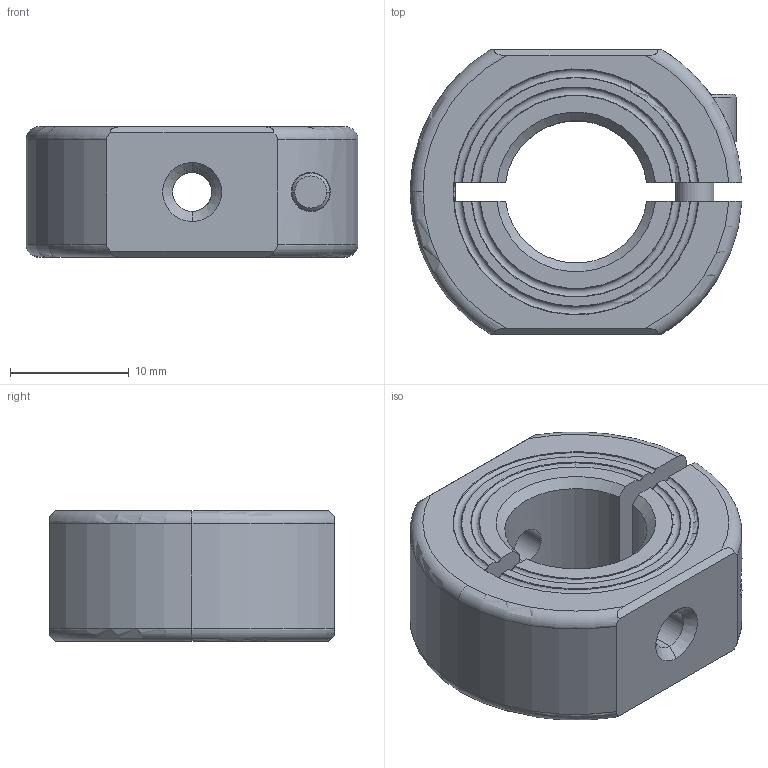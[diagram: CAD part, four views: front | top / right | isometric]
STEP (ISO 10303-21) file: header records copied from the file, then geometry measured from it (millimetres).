
FILE_DESCRIPTION (( 'STEP AP214' ), '1' );
FILE_NAME ('Ruland_OF-MCL-12-F.step', '2019-11-07T15:51:52', ( '' ), ( '' ), 'SwSTEP 2.0', 'SolidWorks 2019', '' );
FILE_SCHEMA (( 'AUTOMOTIVE_DESIGN' ));
Length unit declared in the file: inch
Products named in the file (3): OX-MCL-XX-XX-C_OF-MCL-12-F-C; Metric Socket Head Cap Screws 1_CFM4_12; Ruland_OF-MCL-12-F
Assembly tree (2 placements, depth 2):
  Ruland_OF-MCL-12-F
    OX-MCL-XX-XX-C_OF-MCL-12-F-C
    Metric Socket Head Cap Screws 1_CFM4_12
Bounding box: 27.98 x 24 x 11 mm (x, y, z)
Volume: 4583.4 mm3; surface area: 2970.1 mm2
Topology: 2 solids, 2 shells, 80 faces, 212 edges, 138 vertices
Faces by surface type: plane 28, cylinder 21, cone 19, torus 12
Entity records: 3040 total; most frequent: CARTESIAN_POINT 865, ORIENTED_EDGE 424, DIRECTION 406, EDGE_CURVE 212, AXIS2_PLACEMENT_3D 157, VERTEX_POINT 138, VECTOR 92, LINE 92
